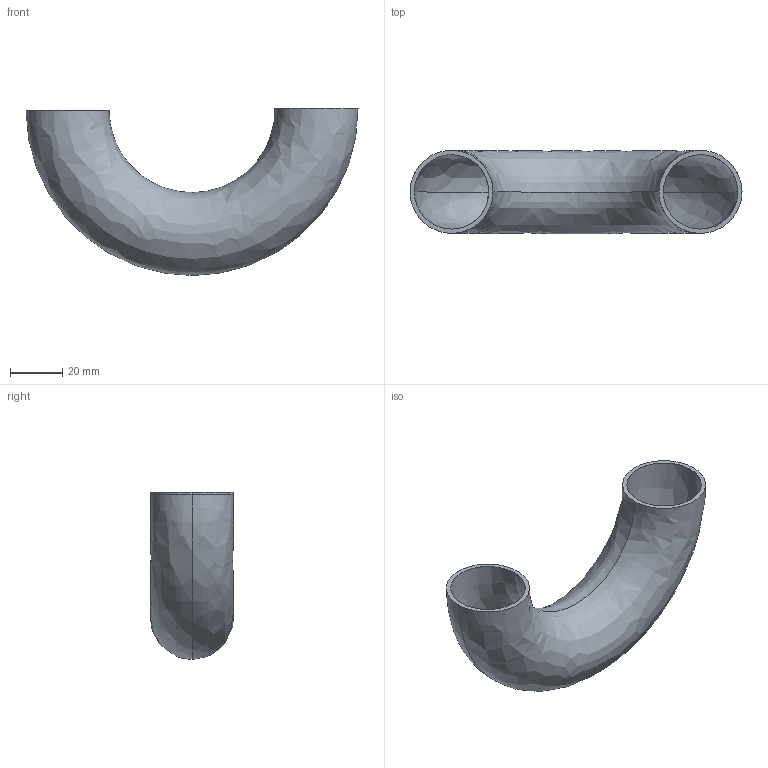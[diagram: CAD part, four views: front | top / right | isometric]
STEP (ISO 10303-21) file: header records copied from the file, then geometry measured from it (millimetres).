
FILE_DESCRIPTION (( 'STEP AP203' ), '1' );
FILE_NAME ('E2WU1.25.STEP', '2018-04-30T18:25:58', ( 'vneprd' ), ( 'Microsoft' ), 'SwSTEP 2.0', 'SolidWorks 2014', '' );
FILE_SCHEMA (( 'CONFIG_CONTROL_DESIGN' ));
Length unit declared in the file: inch
Products named in the file (1): E2WU1.25
Bounding box: 127 x 31.75 x 63.92 mm (x, y, z)
Volume: 23361.1 mm3; surface area: 28606.9 mm2
Topology: 1 solids, 1 shells, 10 faces, 22 edges, 14 vertices
Faces by surface type: bspline 8, plane 2
Entity records: 4109 total; most frequent: CARTESIAN_POINT 3843, ORIENTED_EDGE 44, DIRECTION 26, EDGE_CURVE 22, VERTEX_POINT 14, AXIS2_PLACEMENT_3D 13, B_SPLINE_CURVE_WITH_KNOTS 12, EDGE_LOOP 12
